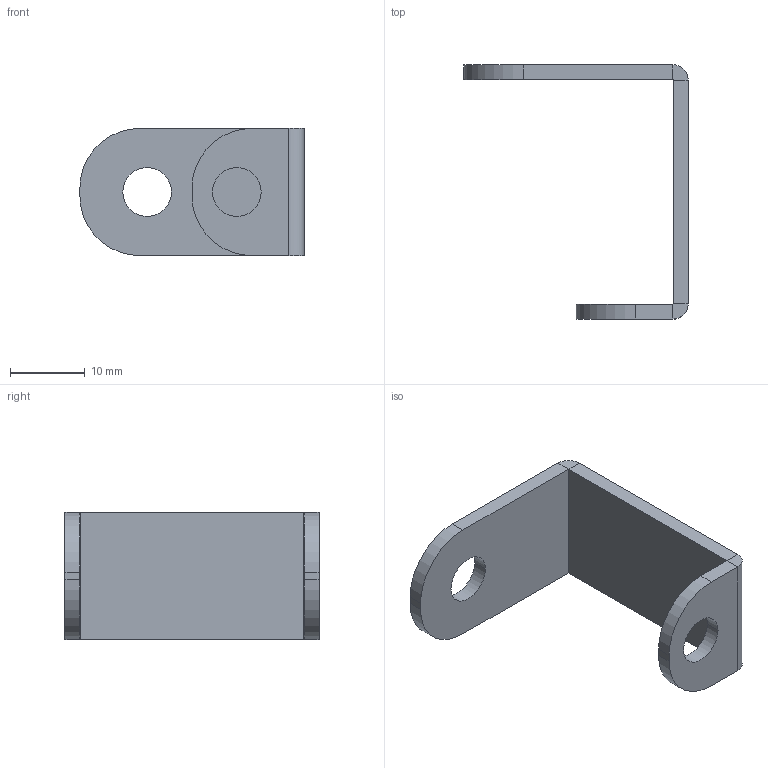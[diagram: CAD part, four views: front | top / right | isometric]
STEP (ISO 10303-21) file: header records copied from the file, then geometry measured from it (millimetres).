
FILE_DESCRIPTION (( 'STEP AP214' ), '1' );
FILE_NAME ('prowadnica fi6 - U.STEP', '2011-06-15T06:26:24', ( 'Techniczny' ), ( 'RST ROZTOCZE' ), 'SwSTEP 2.0', 'SolidWorks 2010', '' );
FILE_SCHEMA (( 'AUTOMOTIVE_DESIGN' ));
Length unit declared in the file: millimetre
Products named in the file (1): prowadnica fi6 - U
Bounding box: 30 x 34 x 17 mm (x, y, z)
Volume: 2276.7 mm3; surface area: 2695.4 mm2
Topology: 1 solids, 1 shells, 30 faces, 68 edges, 40 vertices
Faces by surface type: plane 18, cylinder 12
Entity records: 870 total; most frequent: DIRECTION 154, CARTESIAN_POINT 139, ORIENTED_EDGE 136, EDGE_CURVE 68, AXIS2_PLACEMENT_3D 55, LINE 44, VECTOR 44, VERTEX_POINT 40
